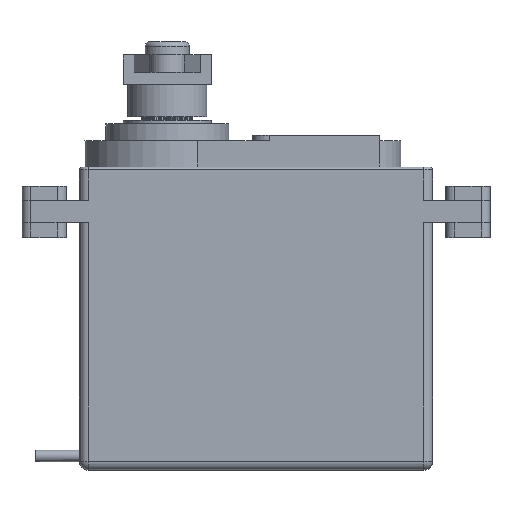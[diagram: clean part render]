
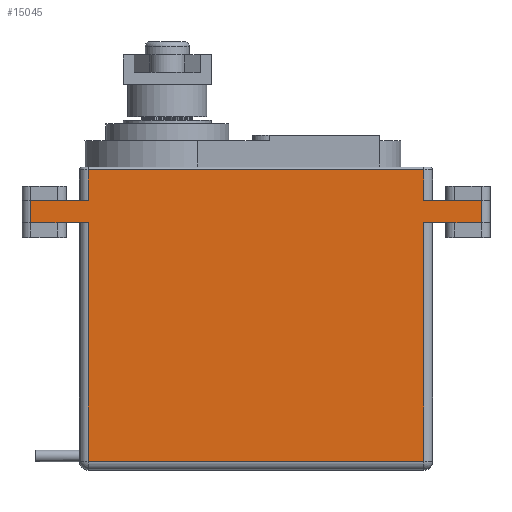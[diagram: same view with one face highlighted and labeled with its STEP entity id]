
A CAD part, top view. The second image highlights one B-rep face of the part: STEP entity #15045.
In plain terms, the highlighted planar face has unit normal (0, 0, 1).
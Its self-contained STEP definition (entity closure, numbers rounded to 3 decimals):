
#14501=CARTESIAN_POINT('',(-7.5,-9.96,0.305));
#14502=VERTEX_POINT('',#14501);
#14527=CARTESIAN_POINT('',(-45.5,-9.96,0.305));
#14528=VERTEX_POINT('',#14527);
#14536=CARTESIAN_POINT('',(-45.5,-9.96,0.305));
#14537=DIRECTION('',(1.0,0.0,0.0));
#14538=VECTOR('',#14537,38.);
#14539=LINE('',#14536,#14538);
#14540=EDGE_CURVE('',#14528,#14502,#14539,.T.);
#14890=CARTESIAN_POINT('',(-7.5,-13.46,0.305));
#14891=VERTEX_POINT('',#14890);
#14892=CARTESIAN_POINT('',(-7.5,-9.96,0.305));
#14893=DIRECTION('',(0.0,-1.0,0.0));
#14894=VECTOR('',#14893,3.5);
#14895=LINE('',#14892,#14894);
#14896=EDGE_CURVE('',#14502,#14891,#14895,.T.);
#14947=CARTESIAN_POINT('',(-45.5,-13.46,0.305));
#14948=VERTEX_POINT('',#14947);
#14956=CARTESIAN_POINT('',(-45.5,-13.46,0.305));
#14957=DIRECTION('',(0.,1.0,0.0));
#14958=VECTOR('',#14957,3.5);
#14959=LINE('',#14956,#14958);
#14960=EDGE_CURVE('',#14948,#14528,#14959,.T.);
#14965=CARTESIAN_POINT('',(-26.5,-25.009,0.305));
#14966=DIRECTION('',(0.0,0.0,1.0));
#14967=DIRECTION('',(1.0,0.0,0.0));
#14968=AXIS2_PLACEMENT_3D('',#14965,#14966,#14967);
#14969=PLANE('',#14968);
#14970=ORIENTED_EDGE('',*,*,#14540,.F.);
#14971=ORIENTED_EDGE('',*,*,#14960,.F.);
#14972=CARTESIAN_POINT('',(-52.,-13.46,0.305));
#14973=VERTEX_POINT('',#14972);
#14974=CARTESIAN_POINT('',(-52.,-13.46,0.305));
#14975=DIRECTION('',(1.0,0.0,0.0));
#14976=VECTOR('',#14975,6.5);
#14977=LINE('',#14974,#14976);
#14978=EDGE_CURVE('',#14973,#14948,#14977,.T.);
#14979=ORIENTED_EDGE('',*,*,#14978,.F.);
#14980=CARTESIAN_POINT('',(-52.,-15.96,0.305));
#14981=VERTEX_POINT('',#14980);
#14982=CARTESIAN_POINT('',(-52.,-15.96,0.305));
#14983=DIRECTION('',(0.0,1.0,0.0));
#14984=VECTOR('',#14983,2.5);
#14985=LINE('',#14982,#14984);
#14986=EDGE_CURVE('',#14981,#14973,#14985,.T.);
#14987=ORIENTED_EDGE('',*,*,#14986,.F.);
#14988=CARTESIAN_POINT('',(-45.5,-15.96,0.305));
#14989=VERTEX_POINT('',#14988);
#14990=CARTESIAN_POINT('',(-45.5,-15.96,0.305));
#14991=DIRECTION('',(-1.0,0.0,0.0));
#14992=VECTOR('',#14991,6.5);
#14993=LINE('',#14990,#14992);
#14994=EDGE_CURVE('',#14989,#14981,#14993,.T.);
#14995=ORIENTED_EDGE('',*,*,#14994,.F.);
#14996=CARTESIAN_POINT('',(-45.5,-42.96,0.305));
#14997=VERTEX_POINT('',#14996);
#14998=CARTESIAN_POINT('',(-45.5,-42.96,0.305));
#14999=DIRECTION('',(0.0,1.0,0.0));
#15000=VECTOR('',#14999,27.);
#15001=LINE('',#14998,#15000);
#15002=EDGE_CURVE('',#14997,#14989,#15001,.T.);
#15003=ORIENTED_EDGE('',*,*,#15002,.F.);
#15004=CARTESIAN_POINT('',(-7.5,-42.96,0.305));
#15005=VERTEX_POINT('',#15004);
#15006=CARTESIAN_POINT('',(-7.5,-42.96,0.305));
#15007=DIRECTION('',(-1.0,0.0,0.0));
#15008=VECTOR('',#15007,38.0);
#15009=LINE('',#15006,#15008);
#15010=EDGE_CURVE('',#15005,#14997,#15009,.T.);
#15011=ORIENTED_EDGE('',*,*,#15010,.F.);
#15012=CARTESIAN_POINT('',(-7.5,-15.96,0.305));
#15013=VERTEX_POINT('',#15012);
#15014=CARTESIAN_POINT('',(-7.5,-15.96,0.305));
#15015=DIRECTION('',(0.0,-1.0,0.0));
#15016=VECTOR('',#15015,27.);
#15017=LINE('',#15014,#15016);
#15018=EDGE_CURVE('',#15013,#15005,#15017,.T.);
#15019=ORIENTED_EDGE('',*,*,#15018,.F.);
#15020=CARTESIAN_POINT('',(-1.,-15.96,0.305));
#15021=VERTEX_POINT('',#15020);
#15022=CARTESIAN_POINT('',(-1.,-15.96,0.305));
#15023=DIRECTION('',(-1.0,0.0,0.0));
#15024=VECTOR('',#15023,6.5);
#15025=LINE('',#15022,#15024);
#15026=EDGE_CURVE('',#15021,#15013,#15025,.T.);
#15027=ORIENTED_EDGE('',*,*,#15026,.F.);
#15028=CARTESIAN_POINT('',(-1.,-13.46,0.305));
#15029=VERTEX_POINT('',#15028);
#15030=CARTESIAN_POINT('',(-1.,-13.46,0.305));
#15031=DIRECTION('',(0.0,-1.0,0.0));
#15032=VECTOR('',#15031,2.5);
#15033=LINE('',#15030,#15032);
#15034=EDGE_CURVE('',#15029,#15021,#15033,.T.);
#15035=ORIENTED_EDGE('',*,*,#15034,.F.);
#15036=CARTESIAN_POINT('',(-7.5,-13.46,0.305));
#15037=DIRECTION('',(1.0,0.0,0.0));
#15038=VECTOR('',#15037,6.5);
#15039=LINE('',#15036,#15038);
#15040=EDGE_CURVE('',#14891,#15029,#15039,.T.);
#15041=ORIENTED_EDGE('',*,*,#15040,.F.);
#15042=ORIENTED_EDGE('',*,*,#14896,.F.);
#15043=EDGE_LOOP('',(#14970,#14971,#14979,#14987,#14995,#15003,#15011,#15019,#15027,#15035,#15041,#15042));
#15044=FACE_OUTER_BOUND('',#15043,.T.);
#15045=ADVANCED_FACE('',(#15044),#14969,.T.);
